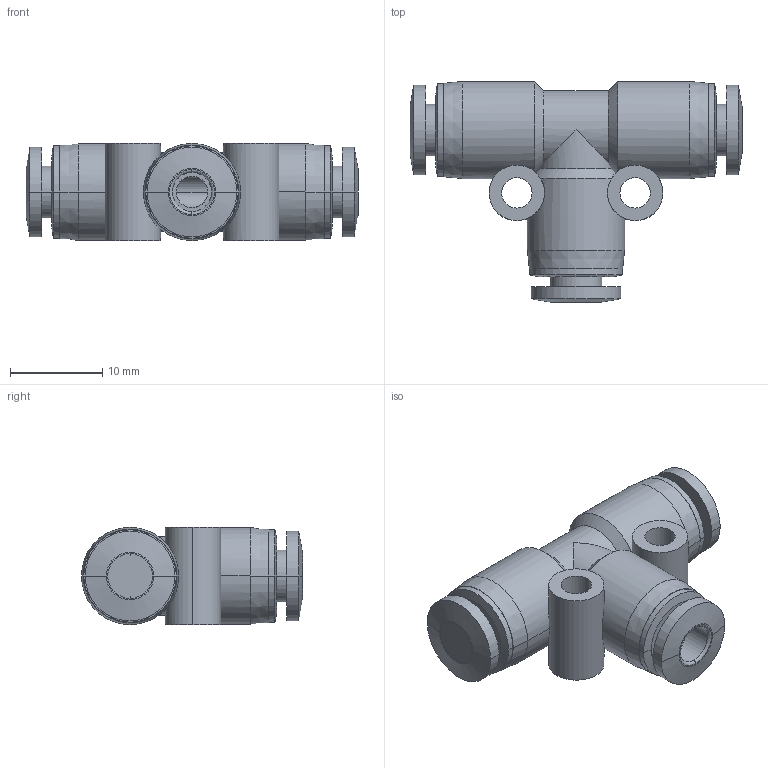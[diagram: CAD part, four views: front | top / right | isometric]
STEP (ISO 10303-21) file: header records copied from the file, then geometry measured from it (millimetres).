
FILE_DESCRIPTION (( 'STEP AP203' ), '1' );
FILE_NAME ('FT04-00.STEP', '2020-05-06T15:25:49', ( '' ), ( '' ), 'SwSTEP 2.0', 'SolidWorks 2019', '' );
FILE_SCHEMA (( 'CONFIG_CONTROL_DESIGN' ));
Length unit declared in the file: millimetre
Products named in the file (1): FT04-00
Bounding box: 35.9 x 23.9 x 10.5 mm (x, y, z)
Volume: 3371.2 mm3; surface area: 3106 mm2
Topology: 1 solids, 1 shells, 96 faces, 226 edges, 144 vertices
Faces by surface type: cylinder 46, cone 24, plane 20, bspline 6
Entity records: 3439 total; most frequent: CARTESIAN_POINT 1151, DIRECTION 484, ORIENTED_EDGE 452, EDGE_CURVE 226, AXIS2_PLACEMENT_3D 209, VERTEX_POINT 144, CIRCLE 118, EDGE_LOOP 114
